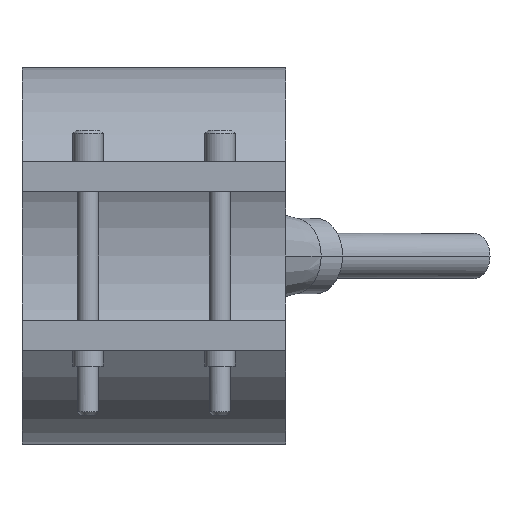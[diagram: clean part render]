
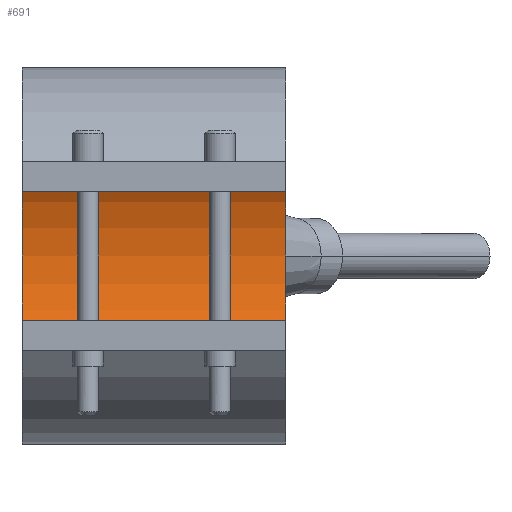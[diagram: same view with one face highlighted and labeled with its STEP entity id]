
A CAD part, front view. The second image highlights one B-rep face of the part: STEP entity #691.
In plain terms, the highlighted cylindrical face has radius 21 mm (diameter 42 mm), a partial arc.
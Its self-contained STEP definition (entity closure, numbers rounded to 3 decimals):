
#361=CARTESIAN_POINT('Vertex',(17.5,0.,21.)) ;
#366=CARTESIAN_POINT('Axis2P3D Location',(17.5,0.,0.)) ;
#370=CARTESIAN_POINT('Vertex',(17.5,0.,-21.)) ;
#477=CARTESIAN_POINT('Vertex',(-17.5,0.,-21.)) ;
#480=CARTESIAN_POINT('Axis2P3D Location',(-17.5,0.,0.)) ;
#484=CARTESIAN_POINT('Vertex',(-17.5,0.,21.)) ;
#663=CARTESIAN_POINT('Line Origine',(17.5,0.,21.)) ;
#675=CARTESIAN_POINT('Axis2P3D Location',(17.5,0.,0.)) ;
#680=CARTESIAN_POINT('Line Origine',(17.5,0.,-21.)) ;
#367=DIRECTION('Axis2P3D Direction',(1.,0.,0.)) ;
#481=DIRECTION('Axis2P3D Direction',(1.,0.,0.)) ;
#664=DIRECTION('Vector Direction',(1.,0.,0.)) ;
#676=DIRECTION('Axis2P3D Direction',(1.,0.,-0.)) ;
#677=DIRECTION('Axis2P3D XDirection',(0.,0.,-1.)) ;
#681=DIRECTION('Vector Direction',(1.,0.,0.)) ;
#368=AXIS2_PLACEMENT_3D('Circle Axis2P3D',#366,#367,$) ;
#482=AXIS2_PLACEMENT_3D('Circle Axis2P3D',#480,#481,$) ;
#678=AXIS2_PLACEMENT_3D('Cylinder Axis2P3D',#675,#676,#677) ;
#686=ORIENTED_EDGE('',*,*,#372,.T.) ;
#687=ORIENTED_EDGE('',*,*,#667,.T.) ;
#688=ORIENTED_EDGE('',*,*,#486,.F.) ;
#689=ORIENTED_EDGE('',*,*,#684,.T.) ;
#665=VECTOR('Line Direction',#664,1.) ;
#682=VECTOR('Line Direction',#681,1.) ;
#691=ADVANCED_FACE('29042035',(#690),#679,.F.) ;
#369=CIRCLE('generated circle',#368,21.) ;
#483=CIRCLE('generated circle',#482,21.) ;
#679=CYLINDRICAL_SURFACE('generated cylinder',#678,21.) ;
#372=EDGE_CURVE('',#371,#362,#369,.T.) ;
#486=EDGE_CURVE('',#478,#485,#483,.T.) ;
#667=EDGE_CURVE('',#362,#485,#666,.F.) ;
#684=EDGE_CURVE('',#478,#371,#683,.T.) ;
#685=EDGE_LOOP('',(#686,#687,#688,#689)) ;
#690=FACE_OUTER_BOUND('',#685,.T.) ;
#666=LINE('Line',#663,#665) ;
#683=LINE('Line',#680,#682) ;
#362=VERTEX_POINT('',#361) ;
#371=VERTEX_POINT('',#370) ;
#478=VERTEX_POINT('',#477) ;
#485=VERTEX_POINT('',#484) ;
